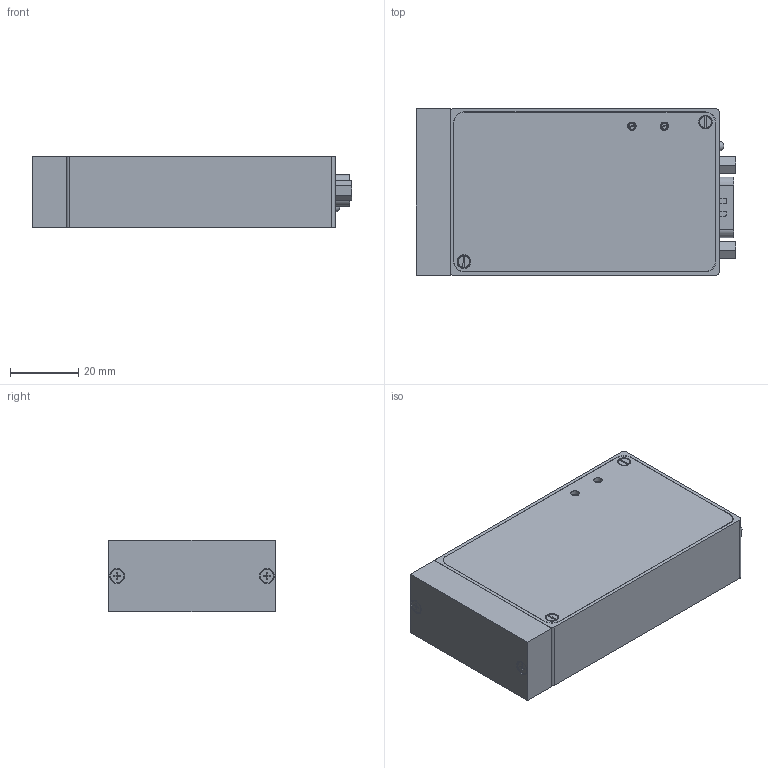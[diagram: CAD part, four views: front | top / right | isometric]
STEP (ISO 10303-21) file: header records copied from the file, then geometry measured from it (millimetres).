
FILE_DESCRIPTION(/* description */ (''),/* implementation_level */ '2;1');
FILE_NAME(/* name */ 'F:\daten\PRODUKTE\TELEMETR\AW\Mechanik\D\AW_D_A\ZSB_AW_D_A.stp',/* time_stamp */ '2019-05-06T10:48:42+02:00',/* author */ ('rosner'),/* organization */ (''),/* preprocessor_version */ 'ST-DEVELOPER v16.5',/* originating_system */ 'Autodesk Inventor 2017',/* authorisation */ '');
FILE_SCHEMA (('AUTOMOTIVE_DESIGN { 1 0 10303 214 3 1 1 }'));
Length unit declared in the file: millimetre
Products named in the file (13): ZSB; Gehaeuse_24V; A-DS 09 PP/Z; Deckel; ISO 1207  - M2 x 4; Antenne; ISO 7046-1  - M2 x 14 - 4.8 - H; 3mmLED; 3mmLED_1; Mutter_M2; ISO 7046-1 - M2,5 x 3 - 4.8 - H; DIN 84 - M1 x 2; HF-Topf
Assembly tree (17 placements, depth 2):
  ZSB
    Gehaeuse_24V
    A-DS 09 PP/Z
    Deckel
    ISO 1207  - M2 x 4  x2
    Antenne
    ISO 7046-1  - M2 x 14 - 4.8 - H  x2
    3mmLED
    3mmLED_1
    Mutter_M2  x2
    ISO 7046-1 - M2,5 x 3 - 4.8 - H  x2
    DIN 84 - M1 x 2  x2
    HF-Topf
Bounding box: 93.9 x 49 x 21 mm (x, y, z)
Volume: 26952.5 mm3; surface area: 35534.2 mm2
Topology: 17 solids, 17 shells, 504 faces, 1237 edges, 814 vertices
Faces by surface type: plane 252, cylinder 146, cone 77, torus 27, sphere 2
Full cylindrical faces by diameter (mm): 0.65 x9, 0.865 x2, 1 x11, 1.54 x9, 1.567 x4, 1.754 x2, 1.755 x2, 2 x4, 2.156 x2, 2.2 x2, 2.224 x2, 2.3 x2, 2.4 x1, 2.459 x2, 2.5 x4, 2.642 x2, 2.7 x2, 2.8 x2, 3 x7, 3.2 x1, 3.8 x2, 4 x2, 4.7 x2, 5 x1, 6 x1
Entity records: 11861 total; most frequent: CARTESIAN_POINT 2153, DIRECTION 2033, ORIENTED_EDGE 1696, EDGE_CURVE 848, AXIS2_PLACEMENT_3D 781, VERTEX_POINT 612, EDGE_LOOP 592, LINE 471
